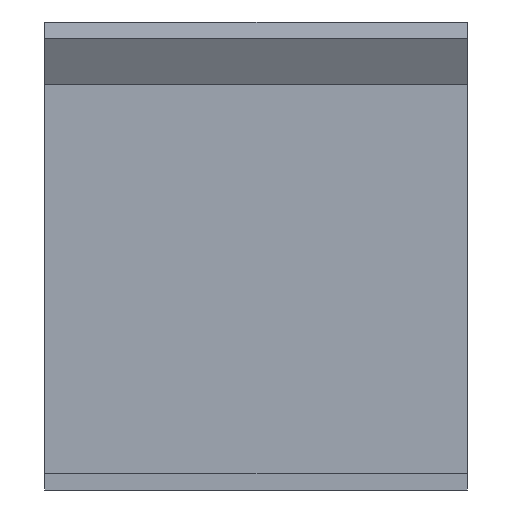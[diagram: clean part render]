
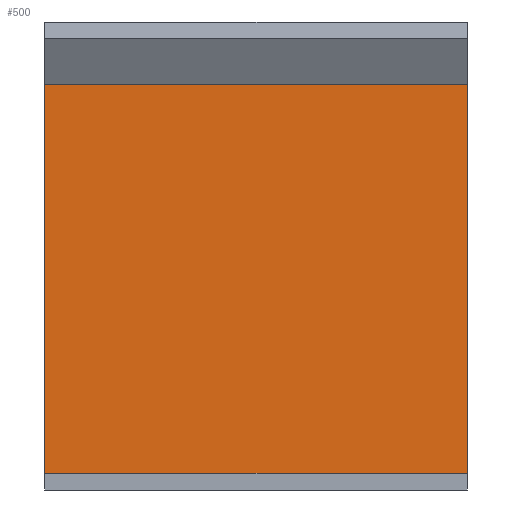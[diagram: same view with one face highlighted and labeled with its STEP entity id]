
A CAD part, front view. The second image highlights one B-rep face of the part: STEP entity #500.
In plain terms, the highlighted planar face has unit normal (0, -1, 0).
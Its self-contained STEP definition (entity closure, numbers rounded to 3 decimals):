
#54 = PLANE('',#55);
#55 = AXIS2_PLACEMENT_3D('',#56,#57,#58);
#56 = CARTESIAN_POINT('',(0.,0.,0.));
#57 = DIRECTION('',(1.,0.,0.));
#58 = DIRECTION('',(0.,0.,1.));
#135 = VERTEX_POINT('',#136);
#136 = CARTESIAN_POINT('',(0.,20.,38.374));
#150 = PLANE('',#151);
#151 = AXIS2_PLACEMENT_3D('',#152,#153,#154);
#152 = CARTESIAN_POINT('',(0.,20.,38.374));
#153 = DIRECTION('',(0.,0.,1.));
#154 = DIRECTION('',(1.,0.,0.));
#162 = EDGE_CURVE('',#163,#135,#165,.T.);
#163 = VERTEX_POINT('',#164);
#164 = CARTESIAN_POINT('',(0.,20.,1.6));
#165 = SURFACE_CURVE('',#166,(#170,#177),.PCURVE_S1.);
#166 = LINE('',#167,#168);
#167 = CARTESIAN_POINT('',(0.,20.,0.));
#168 = VECTOR('',#169,1.);
#169 = DIRECTION('',(0.,0.,1.));
#170 = PCURVE('',#54,#171);
#171 = DEFINITIONAL_REPRESENTATION('',(#172),#176);
#172 = LINE('',#173,#174);
#173 = CARTESIAN_POINT('',(0.,-20.));
#174 = VECTOR('',#175,1.);
#175 = DIRECTION('',(1.,0.));
#176 = ( GEOMETRIC_REPRESENTATION_CONTEXT(2) 
PARAMETRIC_REPRESENTATION_CONTEXT() REPRESENTATION_CONTEXT('2D SPACE',''
  ) );
#177 = PCURVE('',#178,#183);
#178 = PLANE('',#179);
#179 = AXIS2_PLACEMENT_3D('',#180,#181,#182);
#180 = CARTESIAN_POINT('',(0.,20.,0.));
#181 = DIRECTION('',(0.,1.,0.));
#182 = DIRECTION('',(0.,0.,1.));
#183 = DEFINITIONAL_REPRESENTATION('',(#184),#188);
#184 = LINE('',#185,#186);
#185 = CARTESIAN_POINT('',(0.,0.));
#186 = VECTOR('',#187,1.);
#187 = DIRECTION('',(1.,0.));
#188 = ( GEOMETRIC_REPRESENTATION_CONTEXT(2) 
PARAMETRIC_REPRESENTATION_CONTEXT() REPRESENTATION_CONTEXT('2D SPACE',''
  ) );
#204 = PLANE('',#205);
#205 = AXIS2_PLACEMENT_3D('',#206,#207,#208);
#206 = CARTESIAN_POINT('',(0.,0.,1.6));
#207 = DIRECTION('',(0.,0.,1.));
#208 = DIRECTION('',(1.,0.,0.));
#280 = PLANE('',#281);
#281 = AXIS2_PLACEMENT_3D('',#282,#283,#284);
#282 = CARTESIAN_POINT('',(40.,0.,0.));
#283 = DIRECTION('',(1.,0.,0.));
#284 = DIRECTION('',(0.,0.,1.));
#456 = EDGE_CURVE('',#135,#457,#459,.T.);
#457 = VERTEX_POINT('',#458);
#458 = CARTESIAN_POINT('',(40.,20.,38.374));
#459 = SURFACE_CURVE('',#460,(#464,#471),.PCURVE_S1.);
#460 = LINE('',#461,#462);
#461 = CARTESIAN_POINT('',(0.,20.,38.374));
#462 = VECTOR('',#463,1.);
#463 = DIRECTION('',(1.,0.,0.));
#464 = PCURVE('',#150,#465);
#465 = DEFINITIONAL_REPRESENTATION('',(#466),#470);
#466 = LINE('',#467,#468);
#467 = CARTESIAN_POINT('',(0.,0.));
#468 = VECTOR('',#469,1.);
#469 = DIRECTION('',(1.,0.));
#470 = ( GEOMETRIC_REPRESENTATION_CONTEXT(2) 
PARAMETRIC_REPRESENTATION_CONTEXT() REPRESENTATION_CONTEXT('2D SPACE',''
  ) );
#471 = PCURVE('',#178,#472);
#472 = DEFINITIONAL_REPRESENTATION('',(#473),#477);
#473 = LINE('',#474,#475);
#474 = CARTESIAN_POINT('',(38.374,0.));
#475 = VECTOR('',#476,1.);
#476 = DIRECTION('',(0.,1.));
#477 = ( GEOMETRIC_REPRESENTATION_CONTEXT(2) 
PARAMETRIC_REPRESENTATION_CONTEXT() REPRESENTATION_CONTEXT('2D SPACE',''
  ) );
#500 = ADVANCED_FACE('',(#501),#178,.F.);
#501 = FACE_BOUND('',#502,.F.);
#502 = EDGE_LOOP('',(#503,#526,#527,#528));
#503 = ORIENTED_EDGE('',*,*,#504,.F.);
#504 = EDGE_CURVE('',#163,#505,#507,.T.);
#505 = VERTEX_POINT('',#506);
#506 = CARTESIAN_POINT('',(40.,20.,1.6));
#507 = SURFACE_CURVE('',#508,(#512,#519),.PCURVE_S1.);
#508 = LINE('',#509,#510);
#509 = CARTESIAN_POINT('',(0.,20.,1.6));
#510 = VECTOR('',#511,1.);
#511 = DIRECTION('',(1.,0.,0.));
#512 = PCURVE('',#178,#513);
#513 = DEFINITIONAL_REPRESENTATION('',(#514),#518);
#514 = LINE('',#515,#516);
#515 = CARTESIAN_POINT('',(1.6,0.));
#516 = VECTOR('',#517,1.);
#517 = DIRECTION('',(0.,1.));
#518 = ( GEOMETRIC_REPRESENTATION_CONTEXT(2) 
PARAMETRIC_REPRESENTATION_CONTEXT() REPRESENTATION_CONTEXT('2D SPACE',''
  ) );
#519 = PCURVE('',#204,#520);
#520 = DEFINITIONAL_REPRESENTATION('',(#521),#525);
#521 = LINE('',#522,#523);
#522 = CARTESIAN_POINT('',(0.,20.));
#523 = VECTOR('',#524,1.);
#524 = DIRECTION('',(1.,0.));
#525 = ( GEOMETRIC_REPRESENTATION_CONTEXT(2) 
PARAMETRIC_REPRESENTATION_CONTEXT() REPRESENTATION_CONTEXT('2D SPACE',''
  ) );
#526 = ORIENTED_EDGE('',*,*,#162,.T.);
#527 = ORIENTED_EDGE('',*,*,#456,.T.);
#528 = ORIENTED_EDGE('',*,*,#529,.F.);
#529 = EDGE_CURVE('',#505,#457,#530,.T.);
#530 = SURFACE_CURVE('',#531,(#535,#542),.PCURVE_S1.);
#531 = LINE('',#532,#533);
#532 = CARTESIAN_POINT('',(40.,20.,0.));
#533 = VECTOR('',#534,1.);
#534 = DIRECTION('',(0.,0.,1.));
#535 = PCURVE('',#178,#536);
#536 = DEFINITIONAL_REPRESENTATION('',(#537),#541);
#537 = LINE('',#538,#539);
#538 = CARTESIAN_POINT('',(0.,40.));
#539 = VECTOR('',#540,1.);
#540 = DIRECTION('',(1.,0.));
#541 = ( GEOMETRIC_REPRESENTATION_CONTEXT(2) 
PARAMETRIC_REPRESENTATION_CONTEXT() REPRESENTATION_CONTEXT('2D SPACE',''
  ) );
#542 = PCURVE('',#280,#543);
#543 = DEFINITIONAL_REPRESENTATION('',(#544),#548);
#544 = LINE('',#545,#546);
#545 = CARTESIAN_POINT('',(0.,-20.));
#546 = VECTOR('',#547,1.);
#547 = DIRECTION('',(1.,0.));
#548 = ( GEOMETRIC_REPRESENTATION_CONTEXT(2) 
PARAMETRIC_REPRESENTATION_CONTEXT() REPRESENTATION_CONTEXT('2D SPACE',''
  ) );
